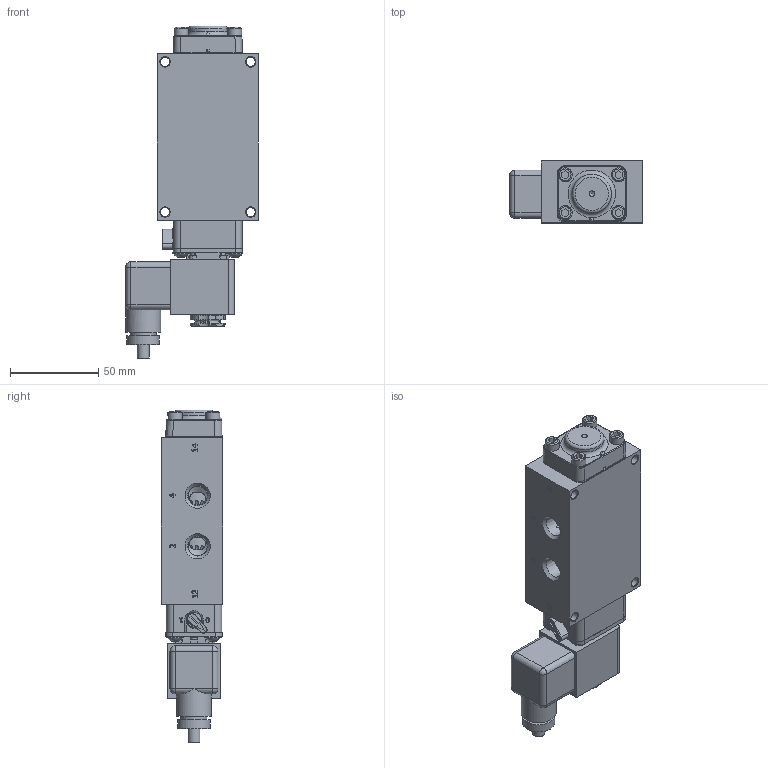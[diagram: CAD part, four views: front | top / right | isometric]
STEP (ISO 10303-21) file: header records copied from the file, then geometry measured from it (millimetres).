
FILE_DESCRIPTION(/* description */ (''),/* implementation_level */ '2;1');
FILE_NAME(/* name */ 'D:\Website Files\stp\Valves\Standard\ESO\ZESO2TOC.stp',/* time_stamp */ '2017-04-12T08:37:07-04:00',/* author */ ('RMcKenna'),/* organization */ (''),/* preprocessor_version */ 'ST-DEVELOPER v15.6',/* originating_system */ 'Autodesk Inventor 2015',/* authorisation */ '');
FILE_SCHEMA (('AUTOMOTIVE_DESIGN { 1 0 10303 214 3 1 1 }'));
Products named in the file (1): Part14
Bounding box: 75.09 x 34.92 x 187.79 mm (x, y, z)
Volume: 245404.9 mm3; surface area: 74474.3 mm2
Topology: 2 solids, 25 shells, 1582 faces, 3881 edges, 2464 vertices
Faces by surface type: plane 733, cylinder 376, cone 260, torus 117, bspline 87, sphere 9
Full cylindrical faces by diameter (mm): 1.168 x10, 1.3 x1, 1.397 x1, 1.5 x1, 2.007 x2, 2.032 x8, 2.35 x4, 2.381 x1, 2.5 x1, 2.8 x1, 3 x4, 3.048 x1, 3.175 x2, 3.4 x1, 3.683 x9, 4.191 x2, 4.394 x1, 4.826 x8, 5.15 x4, 5.156 x12, 5.5 x1, 6.65 x1, 6.731 x1, 7.29 x1, 7.9 x1, 7.938 x4, 8 x2, 8.153 x1, 8.433 x1, 8.6 x2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
Entity records: 50202 total; most frequent: CARTESIAN_POINT 13177, DIRECTION 7247, ORIENTED_EDGE 7020, EDGE_CURVE 3508, AXIS2_PLACEMENT_3D 2742, VERTEX_POINT 2350, EDGE_LOOP 2028, LINE 1763
